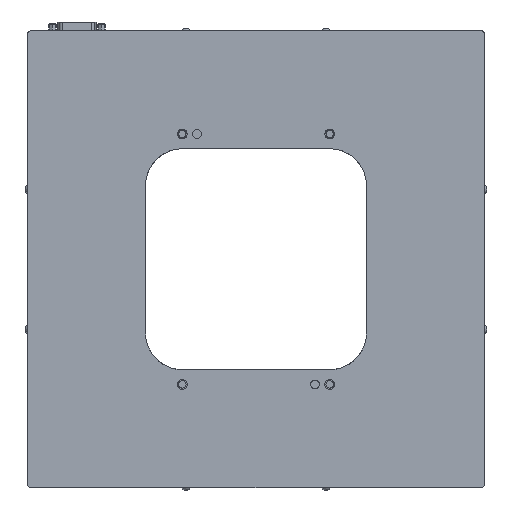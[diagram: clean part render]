
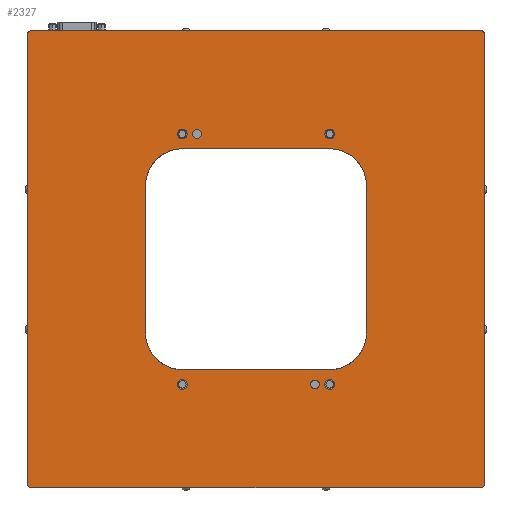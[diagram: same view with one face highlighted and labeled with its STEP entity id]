
A CAD part, front view. The second image highlights one B-rep face of the part: STEP entity #2327.
In plain terms, the highlighted planar face has unit normal (0, -1, 0).
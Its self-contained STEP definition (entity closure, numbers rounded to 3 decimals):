
#2=DIRECTION('',(0.,0.,1.));
#3=VECTOR('',#2,100.);
#4=CARTESIAN_POINT('',(-75.,-19.5,-50.));
#5=LINE('',#4,#3);
#6=CARTESIAN_POINT('',(-50.,-19.5,-50.));
#7=DIRECTION('',(0.,1.,0.));
#8=DIRECTION('',(0.,0.,-1.));
#9=AXIS2_PLACEMENT_3D('',#6,#7,#8);
#11=DIRECTION('',(-1.,0.,0.));
#12=VECTOR('',#11,100.);
#13=CARTESIAN_POINT('',(50.,-19.5,-75.));
#14=LINE('',#13,#12);
#15=CARTESIAN_POINT('',(50.,-19.5,-50.));
#16=DIRECTION('',(0.,1.,0.));
#17=DIRECTION('',(1.,0.,0.));
#18=AXIS2_PLACEMENT_3D('',#15,#16,#17);
#20=DIRECTION('',(0.,0.,-1.));
#21=VECTOR('',#20,100.);
#22=CARTESIAN_POINT('',(75.,-19.5,50.));
#23=LINE('',#22,#21);
#24=CARTESIAN_POINT('',(50.,-19.5,50.));
#25=DIRECTION('',(0.,1.,0.));
#26=DIRECTION('',(0.,0.,1.));
#27=AXIS2_PLACEMENT_3D('',#24,#25,#26);
#29=DIRECTION('',(1.,0.,0.));
#30=VECTOR('',#29,100.);
#31=CARTESIAN_POINT('',(-50.,-19.5,75.));
#32=LINE('',#31,#30);
#33=CARTESIAN_POINT('',(-50.,-19.5,50.));
#34=DIRECTION('',(0.,1.,0.));
#35=DIRECTION('',(-1.,0.,0.));
#36=AXIS2_PLACEMENT_3D('',#33,#34,#35);
#38=CARTESIAN_POINT('',(-50.,-19.5,85.));
#39=DIRECTION('',(0.,1.,0.));
#40=DIRECTION('',(1.,0.,0.));
#41=AXIS2_PLACEMENT_3D('',#38,#39,#40);
#43=CARTESIAN_POINT('',(-50.,-19.5,85.));
#44=DIRECTION('',(0.,1.,0.));
#45=DIRECTION('',(-1.,0.,0.));
#46=AXIS2_PLACEMENT_3D('',#43,#44,#45);
#48=CARTESIAN_POINT('',(-50.,-19.5,-85.));
#49=DIRECTION('',(0.,1.,0.));
#50=DIRECTION('',(1.,0.,0.));
#51=AXIS2_PLACEMENT_3D('',#48,#49,#50);
#53=CARTESIAN_POINT('',(-50.,-19.5,-85.));
#54=DIRECTION('',(0.,1.,0.));
#55=DIRECTION('',(-1.,0.,0.));
#56=AXIS2_PLACEMENT_3D('',#53,#54,#55);
#58=CARTESIAN_POINT('',(50.,-19.5,85.));
#59=DIRECTION('',(0.,1.,0.));
#60=DIRECTION('',(1.,0.,0.));
#61=AXIS2_PLACEMENT_3D('',#58,#59,#60);
#63=CARTESIAN_POINT('',(50.,-19.5,85.));
#64=DIRECTION('',(0.,1.,0.));
#65=DIRECTION('',(-1.,0.,0.));
#66=AXIS2_PLACEMENT_3D('',#63,#64,#65);
#68=CARTESIAN_POINT('',(50.,-19.5,-85.));
#69=DIRECTION('',(0.,1.,0.));
#70=DIRECTION('',(1.,0.,0.));
#71=AXIS2_PLACEMENT_3D('',#68,#69,#70);
#73=CARTESIAN_POINT('',(50.,-19.5,-85.));
#74=DIRECTION('',(0.,1.,0.));
#75=DIRECTION('',(-1.,0.,0.));
#76=AXIS2_PLACEMENT_3D('',#73,#74,#75);
#78=CARTESIAN_POINT('',(-40.,-19.5,85.));
#79=DIRECTION('',(0.,-1.,0.));
#80=DIRECTION('',(1.,0.,0.));
#81=AXIS2_PLACEMENT_3D('',#78,#79,#80);
#83=CARTESIAN_POINT('',(-40.,-19.5,85.));
#84=DIRECTION('',(0.,-1.,0.));
#85=DIRECTION('',(-1.,0.,0.));
#86=AXIS2_PLACEMENT_3D('',#83,#84,#85);
#88=CARTESIAN_POINT('',(40.,-19.5,-85.));
#89=DIRECTION('',(0.,-1.,0.));
#90=DIRECTION('',(1.,0.,0.));
#91=AXIS2_PLACEMENT_3D('',#88,#89,#90);
#93=CARTESIAN_POINT('',(40.,-19.5,-85.));
#94=DIRECTION('',(0.,-1.,0.));
#95=DIRECTION('',(-1.,0.,0.));
#96=AXIS2_PLACEMENT_3D('',#93,#94,#95);
#98=CARTESIAN_POINT('',(-153.,-19.5,-153.));
#99=DIRECTION('',(0.,-1.,0.));
#100=DIRECTION('',(-1.,0.,0.));
#101=AXIS2_PLACEMENT_3D('',#98,#99,#100);
#103=DIRECTION('',(0.,0.,1.));
#104=VECTOR('',#103,306.);
#105=CARTESIAN_POINT('',(-155.,-19.5,-153.));
#106=LINE('',#105,#104);
#107=CARTESIAN_POINT('',(-153.,-19.5,153.));
#108=DIRECTION('',(0.,-1.,0.));
#109=DIRECTION('',(0.,0.,1.));
#110=AXIS2_PLACEMENT_3D('',#107,#108,#109);
#112=DIRECTION('',(1.,0.,0.));
#113=VECTOR('',#112,306.);
#114=CARTESIAN_POINT('',(-153.,-19.5,155.));
#115=LINE('',#114,#113);
#116=CARTESIAN_POINT('',(153.,-19.5,153.));
#117=DIRECTION('',(0.,-1.,0.));
#118=DIRECTION('',(1.,0.,0.));
#119=AXIS2_PLACEMENT_3D('',#116,#117,#118);
#121=DIRECTION('',(0.,0.,-1.));
#122=VECTOR('',#121,306.);
#123=CARTESIAN_POINT('',(155.,-19.5,153.));
#124=LINE('',#123,#122);
#125=CARTESIAN_POINT('',(153.,-19.5,-153.));
#126=DIRECTION('',(0.,-1.,0.));
#127=DIRECTION('',(0.,0.,-1.));
#128=AXIS2_PLACEMENT_3D('',#125,#126,#127);
#130=DIRECTION('',(-1.,0.,0.));
#131=VECTOR('',#130,306.);
#132=CARTESIAN_POINT('',(153.,-19.5,-155.));
#133=LINE('',#132,#131);
#1746=CARTESIAN_POINT('',(-75.,-19.5,-50.));
#1747=CARTESIAN_POINT('',(-75.,-19.5,50.));
#1748=VERTEX_POINT('',#1746);
#1749=VERTEX_POINT('',#1747);
#1750=CARTESIAN_POINT('',(-50.,-19.5,75.));
#1751=CARTESIAN_POINT('',(50.,-19.5,75.));
#1752=VERTEX_POINT('',#1750);
#1753=VERTEX_POINT('',#1751);
#1754=CARTESIAN_POINT('',(75.,-19.5,50.));
#1755=CARTESIAN_POINT('',(75.,-19.5,-50.));
#1756=VERTEX_POINT('',#1754);
#1757=VERTEX_POINT('',#1755);
#1758=CARTESIAN_POINT('',(50.,-19.5,-75.));
#1759=CARTESIAN_POINT('',(-50.,-19.5,-75.));
#1760=VERTEX_POINT('',#1758);
#1761=VERTEX_POINT('',#1759);
#1770=CARTESIAN_POINT('',(-46.7,-19.5,85.));
#1771=CARTESIAN_POINT('',(-53.3,-19.5,85.));
#1772=VERTEX_POINT('',#1770);
#1773=VERTEX_POINT('',#1771);
#1786=CARTESIAN_POINT('',(-46.7,-19.5,-85.));
#1787=CARTESIAN_POINT('',(-53.3,-19.5,-85.));
#1788=VERTEX_POINT('',#1786);
#1789=VERTEX_POINT('',#1787);
#1802=CARTESIAN_POINT('',(53.3,-19.5,85.));
#1803=CARTESIAN_POINT('',(46.7,-19.5,85.));
#1804=VERTEX_POINT('',#1802);
#1805=VERTEX_POINT('',#1803);
#1818=CARTESIAN_POINT('',(53.3,-19.5,-85.));
#1819=CARTESIAN_POINT('',(46.7,-19.5,-85.));
#1820=VERTEX_POINT('',#1818);
#1821=VERTEX_POINT('',#1819);
#1826=CARTESIAN_POINT('',(-37.,-19.5,85.));
#1827=CARTESIAN_POINT('',(-43.,-19.5,85.));
#1828=VERTEX_POINT('',#1826);
#1829=VERTEX_POINT('',#1827);
#1834=CARTESIAN_POINT('',(43.,-19.5,-85.));
#1835=CARTESIAN_POINT('',(37.,-19.5,-85.));
#1836=VERTEX_POINT('',#1834);
#1837=VERTEX_POINT('',#1835);
#1842=CARTESIAN_POINT('',(-155.,-19.5,-153.));
#1843=CARTESIAN_POINT('',(-153.,-19.5,-155.));
#1844=VERTEX_POINT('',#1842);
#1845=VERTEX_POINT('',#1843);
#1860=CARTESIAN_POINT('',(-153.,-19.5,155.));
#1861=CARTESIAN_POINT('',(-155.,-19.5,153.));
#1862=VERTEX_POINT('',#1860);
#1863=VERTEX_POINT('',#1861);
#1878=CARTESIAN_POINT('',(153.,-19.5,-155.));
#1879=CARTESIAN_POINT('',(155.,-19.5,-153.));
#1880=VERTEX_POINT('',#1878);
#1881=VERTEX_POINT('',#1879);
#1888=CARTESIAN_POINT('',(155.,-19.5,153.));
#1889=CARTESIAN_POINT('',(153.,-19.5,155.));
#1890=VERTEX_POINT('',#1888);
#1891=VERTEX_POINT('',#1889);
#2250=CARTESIAN_POINT('',(0.,-19.5,0.));
#2251=DIRECTION('',(0.,1.,0.));
#2252=DIRECTION('',(1.,0.,0.));
#2253=AXIS2_PLACEMENT_3D('',#2250,#2251,#2252);
#2254=PLANE('',#2253);
#2256=ORIENTED_EDGE('',*,*,#2255,.F.);
#2258=ORIENTED_EDGE('',*,*,#2257,.T.);
#2260=ORIENTED_EDGE('',*,*,#2259,.F.);
#2262=ORIENTED_EDGE('',*,*,#2261,.T.);
#2264=ORIENTED_EDGE('',*,*,#2263,.F.);
#2266=ORIENTED_EDGE('',*,*,#2265,.T.);
#2268=ORIENTED_EDGE('',*,*,#2267,.F.);
#2270=ORIENTED_EDGE('',*,*,#2269,.T.);
#2271=EDGE_LOOP('',(#2256,#2258,#2260,#2262,#2264,#2266,#2268,#2270));
#2272=FACE_OUTER_BOUND('',#2271,.F.);
#2274=ORIENTED_EDGE('',*,*,#2273,.F.);
#2276=ORIENTED_EDGE('',*,*,#2275,.F.);
#2277=EDGE_LOOP('',(#2274,#2276));
#2278=FACE_BOUND('',#2277,.F.);
#2280=ORIENTED_EDGE('',*,*,#2279,.F.);
#2282=ORIENTED_EDGE('',*,*,#2281,.F.);
#2283=EDGE_LOOP('',(#2280,#2282));
#2284=FACE_BOUND('',#2283,.F.);
#2286=ORIENTED_EDGE('',*,*,#2285,.F.);
#2288=ORIENTED_EDGE('',*,*,#2287,.F.);
#2289=EDGE_LOOP('',(#2286,#2288));
#2290=FACE_BOUND('',#2289,.F.);
#2292=ORIENTED_EDGE('',*,*,#2291,.F.);
#2294=ORIENTED_EDGE('',*,*,#2293,.F.);
#2295=EDGE_LOOP('',(#2292,#2294));
#2296=FACE_BOUND('',#2295,.F.);
#2298=ORIENTED_EDGE('',*,*,#2297,.T.);
#2300=ORIENTED_EDGE('',*,*,#2299,.T.);
#2301=EDGE_LOOP('',(#2298,#2300));
#2302=FACE_BOUND('',#2301,.F.);
#2304=ORIENTED_EDGE('',*,*,#2303,.T.);
#2306=ORIENTED_EDGE('',*,*,#2305,.T.);
#2307=EDGE_LOOP('',(#2304,#2306));
#2308=FACE_BOUND('',#2307,.F.);
#2310=ORIENTED_EDGE('',*,*,#2309,.F.);
#2312=ORIENTED_EDGE('',*,*,#2311,.F.);
#2314=ORIENTED_EDGE('',*,*,#2313,.F.);
#2316=ORIENTED_EDGE('',*,*,#2315,.F.);
#2318=ORIENTED_EDGE('',*,*,#2317,.F.);
#2320=ORIENTED_EDGE('',*,*,#2319,.F.);
#2322=ORIENTED_EDGE('',*,*,#2321,.F.);
#2324=ORIENTED_EDGE('',*,*,#2323,.F.);
#2325=EDGE_LOOP('',(#2310,#2312,#2314,#2316,#2318,#2320,#2322,#2324));
#2326=FACE_BOUND('',#2325,.F.);
#2327=ADVANCED_FACE('',(#2272,#2278,#2284,#2290,#2296,#2302,#2308,#2326),#2254,
.F.);
#10=CIRCLE('',#9,25.);
#19=CIRCLE('',#18,25.);
#28=CIRCLE('',#27,25.);
#37=CIRCLE('',#36,25.);
#42=CIRCLE('',#41,3.3);
#47=CIRCLE('',#46,3.3);
#52=CIRCLE('',#51,3.3);
#57=CIRCLE('',#56,3.3);
#62=CIRCLE('',#61,3.3);
#67=CIRCLE('',#66,3.3);
#72=CIRCLE('',#71,3.3);
#77=CIRCLE('',#76,3.3);
#82=CIRCLE('',#81,3.);
#87=CIRCLE('',#86,3.);
#92=CIRCLE('',#91,3.);
#97=CIRCLE('',#96,3.);
#102=CIRCLE('',#101,2.);
#111=CIRCLE('',#110,2.);
#120=CIRCLE('',#119,2.);
#129=CIRCLE('',#128,2.);
#2255=EDGE_CURVE('',#1844,#1845,#102,.T.);
#2257=EDGE_CURVE('',#1844,#1863,#106,.T.);
#2259=EDGE_CURVE('',#1862,#1863,#111,.T.);
#2261=EDGE_CURVE('',#1862,#1891,#115,.T.);
#2263=EDGE_CURVE('',#1890,#1891,#120,.T.);
#2265=EDGE_CURVE('',#1890,#1881,#124,.T.);
#2267=EDGE_CURVE('',#1880,#1881,#129,.T.);
#2269=EDGE_CURVE('',#1880,#1845,#133,.T.);
#2273=EDGE_CURVE('',#1772,#1773,#42,.T.);
#2275=EDGE_CURVE('',#1773,#1772,#47,.T.);
#2279=EDGE_CURVE('',#1788,#1789,#52,.T.);
#2281=EDGE_CURVE('',#1789,#1788,#57,.T.);
#2285=EDGE_CURVE('',#1804,#1805,#62,.T.);
#2287=EDGE_CURVE('',#1805,#1804,#67,.T.);
#2291=EDGE_CURVE('',#1820,#1821,#72,.T.);
#2293=EDGE_CURVE('',#1821,#1820,#77,.T.);
#2297=EDGE_CURVE('',#1828,#1829,#82,.T.);
#2299=EDGE_CURVE('',#1829,#1828,#87,.T.);
#2303=EDGE_CURVE('',#1836,#1837,#92,.T.);
#2305=EDGE_CURVE('',#1837,#1836,#97,.T.);
#2309=EDGE_CURVE('',#1748,#1749,#5,.T.);
#2311=EDGE_CURVE('',#1761,#1748,#10,.T.);
#2313=EDGE_CURVE('',#1760,#1761,#14,.T.);
#2315=EDGE_CURVE('',#1757,#1760,#19,.T.);
#2317=EDGE_CURVE('',#1756,#1757,#23,.T.);
#2319=EDGE_CURVE('',#1753,#1756,#28,.T.);
#2321=EDGE_CURVE('',#1752,#1753,#32,.T.);
#2323=EDGE_CURVE('',#1749,#1752,#37,.T.);
